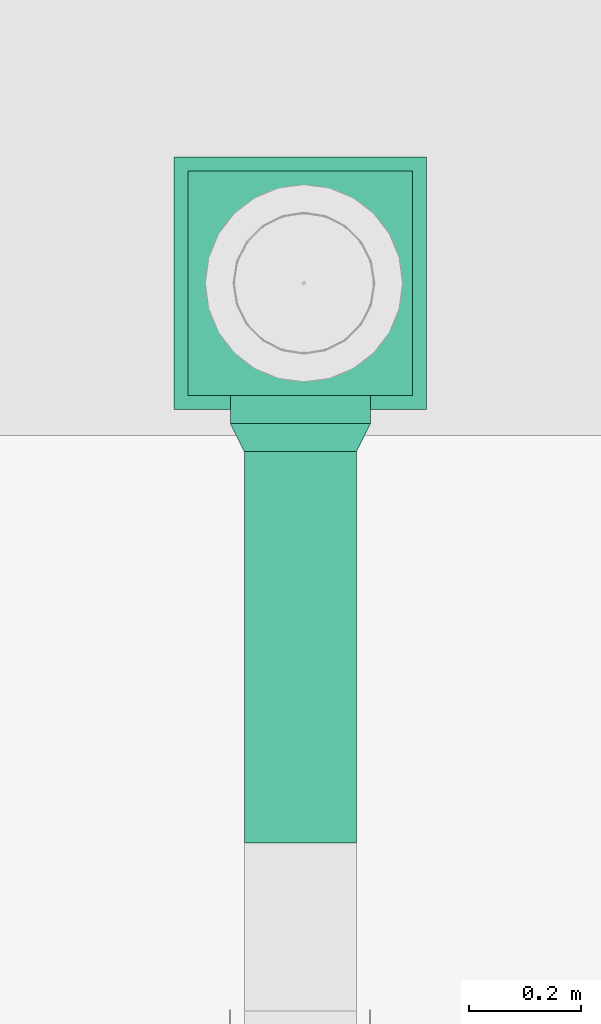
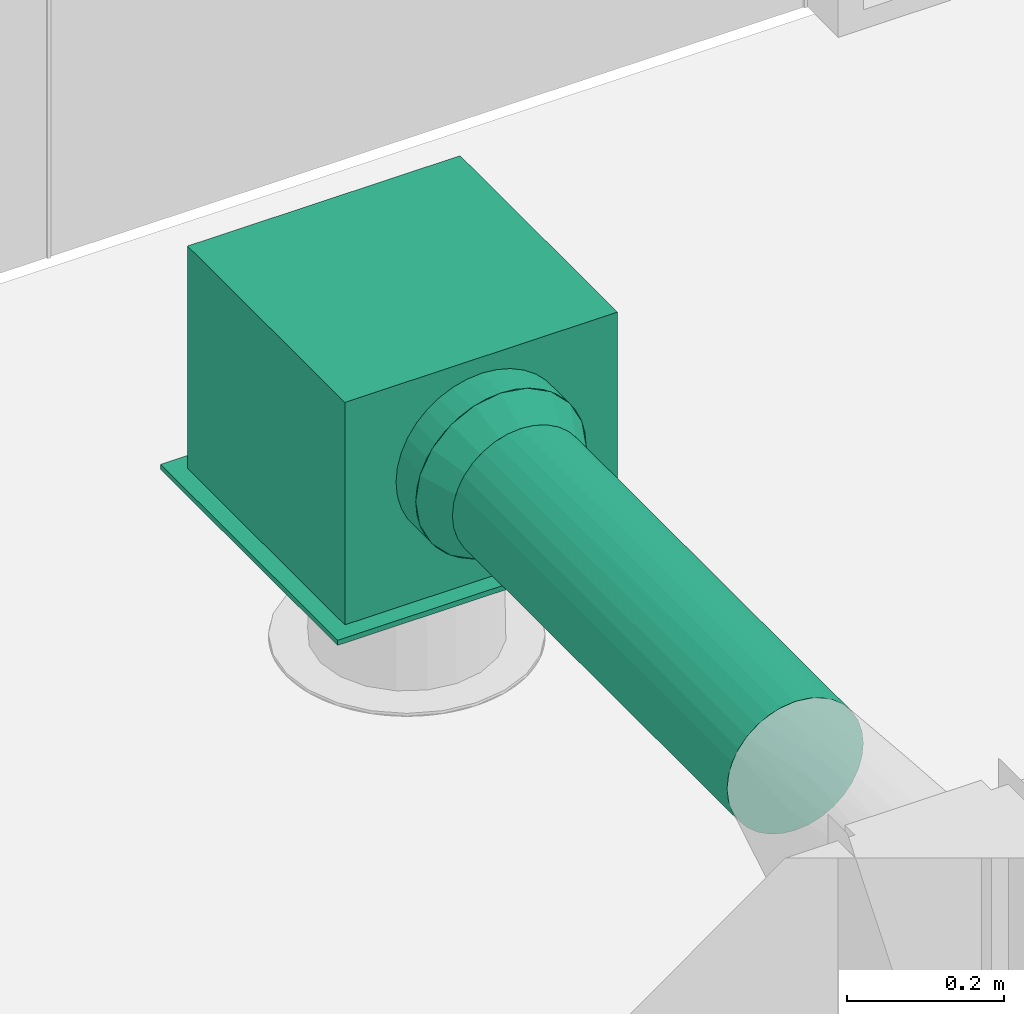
# One storey, part 283 of 302: 1 flow fitting, 1 flow segment, 1 flow terminal.
"""IFC2X3 building model written with IfcOpenShell, lengths in metres."""

from ifc_helpers import new_model, entity, si_unit, converted_unit, derived_unit, direction, frame, frame_2d, origin, origin_2d_with_axis, place, context, subcontext, project, spatial, rectangle, circle, extrude, faceted_brep, source, transform, mapped, material, material_list, type_object, type_shapes, element, save


model = new_model("IFC2X3")

# Units and contexts
model_context = context("Model", 3, precision=1e-05, world=origin(), true_north=direction((6.12303176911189e-17, 1.0)))
body_context = subcontext(model_context, "Body", "Model", "MODEL_VIEW")
ifc_project = project(units=[si_unit("LENGTHUNIT", "METRE"), si_unit("AREAUNIT", "SQUARE_METRE"), si_unit("VOLUMEUNIT", "CUBIC_METRE"), converted_unit("PLANEANGLEUNIT", "DEGREE", entity("IfcRatioMeasure", 0.0174532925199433), si_unit("PLANEANGLEUNIT", "RADIAN"), dimensions=[0, 0, 0, 0, 0, 0, 0]), si_unit("MASSUNIT", "GRAM", prefix="KILO"), derived_unit("MASSDENSITYUNIT", [(si_unit("MASSUNIT", "GRAM", prefix="KILO"), 1), (si_unit("LENGTHUNIT", "METRE"), -3)]), derived_unit("MOMENTOFINERTIAUNIT", [(si_unit("LENGTHUNIT", "METRE"), 4)]), si_unit("TIMEUNIT", "SECOND"), si_unit("FREQUENCYUNIT", "HERTZ"), si_unit("THERMODYNAMICTEMPERATUREUNIT", "DEGREE_CELSIUS"), derived_unit("THERMALTRANSMITTANCEUNIT", [(si_unit("MASSUNIT", "GRAM", prefix="KILO"), 1), (si_unit("THERMODYNAMICTEMPERATUREUNIT", "KELVIN"), -1), (si_unit("TIMEUNIT", "SECOND"), -3)]), derived_unit("VOLUMETRICFLOWRATEUNIT", [(si_unit("LENGTHUNIT", "METRE"), 3), (si_unit("TIMEUNIT", "SECOND"), -1)]), si_unit("ELECTRICCURRENTUNIT", "AMPERE"), si_unit("ELECTRICVOLTAGEUNIT", "VOLT"), si_unit("POWERUNIT", "WATT"), si_unit("FORCEUNIT", "NEWTON", prefix="KILO"), si_unit("ILLUMINANCEUNIT", "LUX"), si_unit("LUMINOUSFLUXUNIT", "LUMEN"), si_unit("LUMINOUSINTENSITYUNIT", "CANDELA"), derived_unit("USERDEFINED", [(si_unit("MASSUNIT", "GRAM", prefix="KILO"), -1), (si_unit("LENGTHUNIT", "METRE"), -2), (si_unit("TIMEUNIT", "SECOND"), 3), (si_unit("LUMINOUSFLUXUNIT", "LUMEN"), 1)]), derived_unit("LINEARVELOCITYUNIT", [(si_unit("LENGTHUNIT", "METRE"), 1), (si_unit("TIMEUNIT", "SECOND"), -1)]), si_unit("PRESSUREUNIT", "PASCAL"), derived_unit("USERDEFINED", [(si_unit("LENGTHUNIT", "METRE"), -2), (si_unit("MASSUNIT", "GRAM", prefix="KILO"), 1), (si_unit("TIMEUNIT", "SECOND"), -2)]), derived_unit("LINEARFORCEUNIT", [(si_unit("MASSUNIT", "GRAM", prefix="KILO"), 1), (si_unit("LENGTHUNIT", "METRE"), 1), (si_unit("TIMEUNIT", "SECOND"), -2), (si_unit("LENGTHUNIT", "METRE"), -1)]), derived_unit("PLANARFORCEUNIT", [(si_unit("MASSUNIT", "GRAM", prefix="KILO"), 1), (si_unit("LENGTHUNIT", "METRE"), 1), (si_unit("TIMEUNIT", "SECOND"), -2), (si_unit("LENGTHUNIT", "METRE"), -2)])], contexts=[model_context])

# Site, building, storey
site_placement = place(None, origin())
site = spatial("IfcSite", under=ifc_project, at=site_placement, Name="Default", CompositionType="ELEMENT")
building_placement = place(site_placement, origin())
building = spatial("IfcBuilding", under=site, at=building_placement, CompositionType="ELEMENT")
storey_placement = place(building_placement, frame((0.0, 0.0, -1.3)))
storey = spatial("IfcBuildingStorey", under=building, at=storey_placement, Name="00_EG", CompositionType="ELEMENT", Elevation=-1.3)

# Flow segment
duct_segment_type = type_object("IfcDuctSegmentType", Name="Rund:STR_Segment_RND_GS_EA", PredefinedType="NOTDEFINED")
flow_segment_placement = place(storey_placement, origin())
element("IfcFlowSegment", 1, at=flow_segment_placement, inside=storey, type_object=duct_segment_type, Name="Rund:STR_Segment_RND_GS_EA", ObjectType="Rund:STR_Segment_RND_GS_EA", context=body_context, shape_type="SweptSolid", body=[
    extrude(circle(Radius=0.1, at=frame_2d((0.0, -1.62430069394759e-15), x_axis=(1.0, 0.0))), frame((-226.004391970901, 39.5332258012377, 4.985), z_axis=(0.0, 1.0, 0.0), x_axis=(-1.0, 0.0, 0.0)), (0.0, 0.0, 1.0), 0.697893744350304),
])

# Flow terminal
ifc_material = material(Name="<Unnamed>")
ifc_material_list = material_list([ifc_material, ifc_material, ifc_material])
air_terminal_type = type_object("IfcAirTerminalType", Name="Drallauslass Zuluft seitlich:600 quadratisch", PredefinedType="NOTDEFINED", material=ifc_material_list)
shared_shape_1 = source(origin(), body_context, "Body", "SweptSolid", [
    extrude(rectangle(XDim=0.449999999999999, YDim=0.450000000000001, at=origin_2d_with_axis()), frame((0.0, 0.0, 2.692), z_axis=(0.0, 0.0, 1.0), x_axis=(-1.0, 0.0, 0.0)), (0.0, 0.0, 1.0), 0.00800000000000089),
    extrude(circle(Radius=0.125, at=frame_2d((1.22275294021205e-18, 0.0), x_axis=(1.0, 0.0))), frame((-0.25, 0.0, 2.89500000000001), z_axis=(1.0, 0.0, 0.0), x_axis=(0.0, 1.0, 0.0)), (0.0, 0.0, 1.0), 0.0499999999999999),
    extrude(rectangle(XDim=0.399999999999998, YDim=0.4, at=origin_2d_with_axis()), frame((0.0, 0.0, 2.7), z_axis=(0.0, 0.0, 1.0), x_axis=(-1.0, 0.0, 0.0)), (0.0, 0.0, 1.0), 0.345000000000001),
])
type_shapes(air_terminal_type, [shared_shape_1])
flow_terminal_placement = place(storey_placement, frame((-226.004391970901, 40.531119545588, 2.08999999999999), z_axis=(0.0, 0.0, 1.0), x_axis=(0.0, 1.0, 0.0)))
element("IfcFlowTerminal", 2, at=flow_terminal_placement, inside=storey, type_object=air_terminal_type, material=ifc_material, Name="Drallauslass Zuluft seitlich:600 quadratisch", ObjectType="Drallauslass Zuluft seitlich:600 quadratisch", context=body_context, shape_type="MappedRepresentation", body=[
    mapped(shared_shape_1, transform((0.0, 0.0, 0.0), scale=1.0)),
])

# Flow fitting
duct_fitting_type = type_object("IfcDuctFittingType", Name="STR_RND_Transition:STR_Transition_RND_GS_EA", PredefinedType="NOTDEFINED", material=ifc_material)
shared_shape_2 = source(origin(), body_context, "Body", "Brep", [
    faceted_brep([(0.0500000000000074, -0.0587785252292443, -0.0809016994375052), (0.0500000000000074, -0.0309016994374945, -0.0951056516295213), (0.0500000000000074, 0.0, -0.10000000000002), (0.0500000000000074, 0.0309016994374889, -0.0951056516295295), (0.0500000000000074, 0.058778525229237, -0.0809016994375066), (0.0500000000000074, 0.0809016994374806, -0.0587785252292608), (0.0500000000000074, 0.0951056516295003, -0.0309016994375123), (0.0500000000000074, 0.0999999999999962, 0.0), (0.0500000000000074, 0.0951056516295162, 0.0309016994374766), (0.0500000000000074, 0.0809016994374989, 0.0587785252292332), (0.0500000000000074, 0.0587785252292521, 0.0809016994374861), (0.0500000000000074, 0.0309016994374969, 0.0951056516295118), (0.0500000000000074, 0.0, 0.0999999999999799), (0.0500000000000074, -0.0309016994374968, 0.0951056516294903), (0.0500000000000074, -0.058778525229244, 0.0809016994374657), (0.0500000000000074, -0.0809016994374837, 0.0587785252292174), (0.0500000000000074, -0.0951056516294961, 0.0309016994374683), (0.0500000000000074, -0.100000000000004, 0.0), (0.0500000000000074, -0.0951056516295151, -0.030901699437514), (0.0500000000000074, -0.0809016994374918, -0.0587785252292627), (0.0, -0.124999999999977, 0.0), (0.0, -0.118882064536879, 0.038627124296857), (0.0, -0.101127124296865, 0.073473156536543), (0.0, -0.0734731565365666, 0.101127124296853), (0.0, -0.0386271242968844, 0.118882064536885), (0.0, 0.0, 0.125000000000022), (0.0, 0.0386271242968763, 0.11888206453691), (0.0, 0.0734731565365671, 0.101127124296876), (0.0, 0.101127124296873, 0.0734731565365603), (0.0, 0.118882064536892, 0.038627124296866), (0.0, 0.124999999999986, 0.0), (0.0, 0.118882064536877, -0.0386271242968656), (0.0, 0.101127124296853, -0.0734731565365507), (0.0, 0.0734731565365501, -0.101127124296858), (0.0, 0.0386271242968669, -0.118882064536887), (0.0, 0.0, -0.124999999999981), (0.0, -0.0386271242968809, -0.118882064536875), (0.0, -0.0734731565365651, -0.101127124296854), (0.0, -0.101127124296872, -0.0734731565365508), (0.0, -0.118882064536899, -0.0386271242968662)], [[[0, 1, 2, 3, 4, 5, 6, 7, 8, 9, 10, 11, 12, 13, 14, 15, 16, 17, 18, 19]], [[20, 21, 22, 23, 24, 25, 26, 27, 28, 29, 30, 31, 32, 33, 34, 35, 36, 37, 38, 39]], [[26, 25, 12, 11]], [[27, 26, 11, 10]], [[10, 9, 28, 27]], [[8, 7, 30, 29]], [[9, 8, 29, 28]], [[21, 20, 17, 16]], [[22, 21, 16, 15]], [[15, 14, 23, 22]], [[13, 12, 25, 24]], [[14, 13, 24, 23]], [[36, 35, 2, 1]], [[37, 36, 1, 0]], [[0, 19, 38, 37]], [[18, 17, 20, 39]], [[19, 18, 39, 38]], [[31, 30, 7, 6]], [[32, 31, 6, 5]], [[5, 4, 33, 32]], [[3, 2, 35, 34]], [[4, 3, 34, 33]]]),
])
type_shapes(duct_fitting_type, [shared_shape_2])
flow_fitting_placement = place(storey_placement, frame((-226.004391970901, 40.281119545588, 4.985), z_axis=(0.0, 0.0, 1.0), x_axis=(0.0, -1.0, 0.0)))
element("IfcFlowFitting", 3, at=flow_fitting_placement, inside=storey, type_object=duct_fitting_type, material=ifc_material, Name="STR_RND_Transition:STR_Transition_RND_GS_EA", ObjectType="STR_RND_Transition:STR_Transition_RND_GS_EA", context=body_context, shape_type="MappedRepresentation", body=[
    mapped(shared_shape_2, transform((0.0, 0.0, 0.0), scale=1.0)),
])

save(model, "model.ifc")
